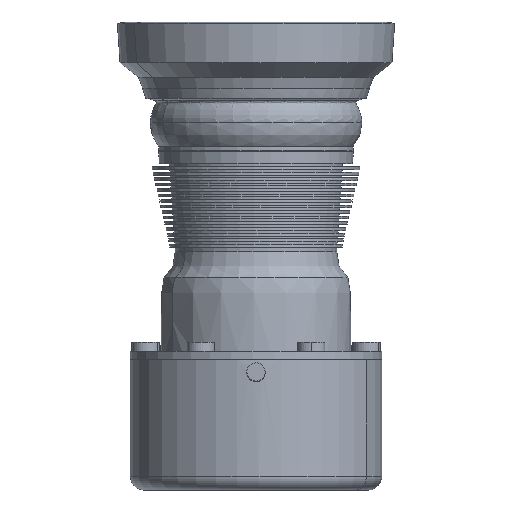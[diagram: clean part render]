
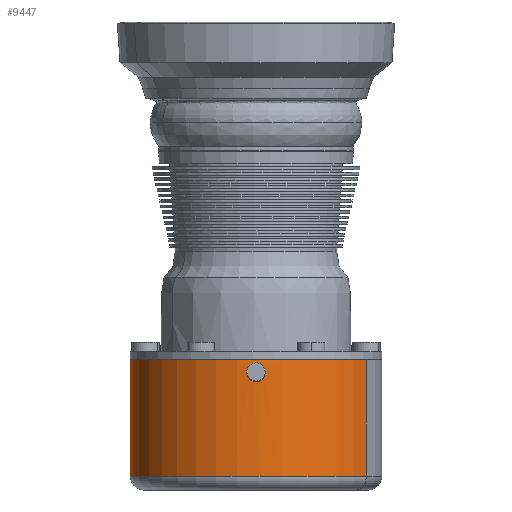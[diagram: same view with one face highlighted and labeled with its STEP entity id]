
A CAD part, left-side view. The second image highlights one B-rep face of the part: STEP entity #9447.
In plain terms, the highlighted cylindrical face has radius 138 mm (diameter 276 mm), a partial arc.
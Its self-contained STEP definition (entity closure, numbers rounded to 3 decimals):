
#9345=CARTESIAN_POINT('Axis2P3D Location',(0.,0.,-57.051)) ;
#9350=CARTESIAN_POINT('Line Origine',(66.161,121.106,-57.051)) ;
#9354=CARTESIAN_POINT('Vertex',(66.161,121.106,-113.555)) ;
#9356=CARTESIAN_POINT('Vertex',(66.161,121.106,14.452)) ;
#9363=CARTESIAN_POINT('Vertex',(-66.161,-121.106,14.452)) ;
#9366=CARTESIAN_POINT('Line Origine',(-66.161,-121.106,-57.051)) ;
#9370=CARTESIAN_POINT('Vertex',(-66.161,-121.106,-113.555)) ;
#9389=CARTESIAN_POINT('Axis2P3D Location',(0.,0.,14.452)) ;
#9394=CARTESIAN_POINT('Axis2P3D Location',(0.,0.,-113.555)) ;
#9406=CARTESIAN_POINT('Control Point',(-137.637,-10.,0.)) ;
#9407=CARTESIAN_POINT('Control Point',(-137.637,-10.,-2.069)) ;
#9408=CARTESIAN_POINT('Control Point',(-137.676,-9.465,-4.138)) ;
#9409=CARTESIAN_POINT('Control Point',(-137.755,-8.393,-6.021)) ;
#9410=CARTESIAN_POINT('Control Point',(-137.882,-6.137,-8.296)) ;
#9411=CARTESIAN_POINT('Control Point',(-137.967,-3.265,-9.538)) ;
#9412=CARTESIAN_POINT('Control Point',(-137.987,-2.258,-9.825)) ;
#9413=CARTESIAN_POINT('Control Point',(-138.021,0.84,-10.286)) ;
#9414=CARTESIAN_POINT('Control Point',(-137.967,3.961,-9.541)) ;
#9415=CARTESIAN_POINT('Control Point',(-137.89,5.865,-8.504)) ;
#9416=CARTESIAN_POINT('Control Point',(-137.76,8.238,-6.235)) ;
#9417=CARTESIAN_POINT('Control Point',(-137.671,9.538,-3.301)) ;
#9418=CARTESIAN_POINT('Control Point',(-137.648,9.846,-2.22)) ;
#9419=CARTESIAN_POINT('Control Point',(-137.637,10.,-1.11)) ;
#9420=CARTESIAN_POINT('Control Point',(-137.637,10.,0.)) ;
#9421=CARTESIAN_POINT('Vertex',(-137.637,-10.,0.)) ;
#9423=CARTESIAN_POINT('Vertex',(-137.637,10.,0.)) ;
#9427=CARTESIAN_POINT('Control Point',(-137.637,10.,0.)) ;
#9428=CARTESIAN_POINT('Control Point',(-137.637,10.,2.069)) ;
#9429=CARTESIAN_POINT('Control Point',(-137.676,9.465,4.138)) ;
#9430=CARTESIAN_POINT('Control Point',(-137.755,8.393,6.021)) ;
#9431=CARTESIAN_POINT('Control Point',(-137.882,6.137,8.296)) ;
#9432=CARTESIAN_POINT('Control Point',(-137.967,3.265,9.538)) ;
#9433=CARTESIAN_POINT('Control Point',(-137.987,2.258,9.825)) ;
#9434=CARTESIAN_POINT('Control Point',(-138.021,-0.84,10.286)) ;
#9435=CARTESIAN_POINT('Control Point',(-137.967,-3.961,9.541)) ;
#9436=CARTESIAN_POINT('Control Point',(-137.89,-5.865,8.504)) ;
#9437=CARTESIAN_POINT('Control Point',(-137.76,-8.238,6.235)) ;
#9438=CARTESIAN_POINT('Control Point',(-137.671,-9.538,3.301)) ;
#9439=CARTESIAN_POINT('Control Point',(-137.648,-9.846,2.22)) ;
#9440=CARTESIAN_POINT('Control Point',(-137.637,-10.,1.11)) ;
#9441=CARTESIAN_POINT('Control Point',(-137.637,-10.,0.)) ;
#9346=DIRECTION('Axis2P3D Direction',(0.,0.,-1.)) ;
#9347=DIRECTION('Axis2P3D XDirection',(0.479,0.878,0.)) ;
#9351=DIRECTION('Vector Direction',(0.,0.,-1.)) ;
#9367=DIRECTION('Vector Direction',(0.,0.,-1.)) ;
#9390=DIRECTION('Axis2P3D Direction',(0.,0.,-1.)) ;
#9395=DIRECTION('Axis2P3D Direction',(0.,0.,-1.)) ;
#9348=AXIS2_PLACEMENT_3D('Cylinder Axis2P3D',#9345,#9346,#9347) ;
#9391=AXIS2_PLACEMENT_3D('Circle Axis2P3D',#9389,#9390,$) ;
#9396=AXIS2_PLACEMENT_3D('Circle Axis2P3D',#9394,#9395,$) ;
#9400=ORIENTED_EDGE('',*,*,#9372,.T.) ;
#9401=ORIENTED_EDGE('',*,*,#9393,.T.) ;
#9402=ORIENTED_EDGE('',*,*,#9358,.F.) ;
#9403=ORIENTED_EDGE('',*,*,#9398,.F.) ;
#9444=ORIENTED_EDGE('',*,*,#9425,.T.) ;
#9445=ORIENTED_EDGE('',*,*,#9442,.T.) ;
#9446=FACE_BOUND('',#9443,.T.) ;
#9352=VECTOR('Line Direction',#9351,1.) ;
#9368=VECTOR('Line Direction',#9367,1.) ;
#9447=ADVANCED_FACE('PartBody',(#9404,#9446),#9349,.T.) ;
#9405=B_SPLINE_CURVE_WITH_KNOTS('',5,(#9406,#9407,#9408,#9409,#9410,#9411,#9412,#9413,#9414,#9415,#9416,#9417,#9418,#9419,#9420),.UNSPECIFIED.,.F.,.U.,(6,3,3,3,6),(0.,14.631,21.953,36.596,44.443),.UNSPECIFIED.) ;
#9426=B_SPLINE_CURVE_WITH_KNOTS('',5,(#9427,#9428,#9429,#9430,#9431,#9432,#9433,#9434,#9435,#9436,#9437,#9438,#9439,#9440,#9441),.UNSPECIFIED.,.F.,.U.,(6,3,3,3,6),(0.,14.631,21.953,36.596,44.443),.UNSPECIFIED.) ;
#9392=CIRCLE('generated circle',#9391,138.) ;
#9397=CIRCLE('generated circle',#9396,138.) ;
#9349=CYLINDRICAL_SURFACE('generated cylinder',#9348,138.) ;
#9358=EDGE_CURVE('',#9355,#9357,#9353,.F.) ;
#9372=EDGE_CURVE('',#9371,#9364,#9369,.F.) ;
#9393=EDGE_CURVE('',#9364,#9357,#9392,.T.) ;
#9398=EDGE_CURVE('',#9371,#9355,#9397,.T.) ;
#9425=EDGE_CURVE('',#9422,#9424,#9405,.T.) ;
#9442=EDGE_CURVE('',#9424,#9422,#9426,.T.) ;
#9399=EDGE_LOOP('',(#9400,#9401,#9402,#9403)) ;
#9443=EDGE_LOOP('',(#9444,#9445)) ;
#9404=FACE_OUTER_BOUND('',#9399,.T.) ;
#9353=LINE('Line',#9350,#9352) ;
#9369=LINE('Line',#9366,#9368) ;
#9355=VERTEX_POINT('',#9354) ;
#9357=VERTEX_POINT('',#9356) ;
#9364=VERTEX_POINT('',#9363) ;
#9371=VERTEX_POINT('',#9370) ;
#9422=VERTEX_POINT('',#9421) ;
#9424=VERTEX_POINT('',#9423) ;
